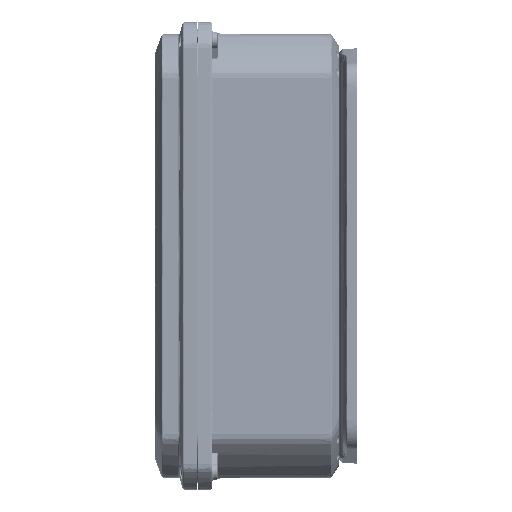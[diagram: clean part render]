
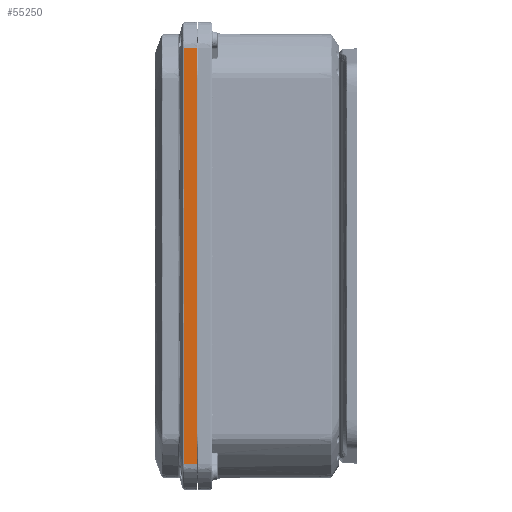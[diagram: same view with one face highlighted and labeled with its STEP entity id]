
A CAD part, left-side view. The second image highlights one B-rep face of the part: STEP entity #55250.
In plain terms, the highlighted planar face has unit normal (-0.999, 0.035, 0).
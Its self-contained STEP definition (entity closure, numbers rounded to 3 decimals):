
#1592 = FACE_OUTER_BOUND ( 'NONE', #233417, .T. ) ;
#2934 = ORIENTED_EDGE ( 'NONE', *, *, #136602, .F. ) ;
#4958 = CARTESIAN_POINT ( 'NONE',  ( -7.607, 0.363, 5.89 ) ) ;
#12623 = CARTESIAN_POINT ( 'NONE',  ( -7.607, 0.363, -5.676 ) ) ;
#13707 = VECTOR ( 'NONE', #243016, 39.37 ) ;
#15386 = CARTESIAN_POINT ( 'NONE',  ( -7.607, 0.363, -5.461 ) ) ;
#21389 = DIRECTION ( 'NONE',  ( -0.035, -0.999, 0. ) ) ;
#23680 = CARTESIAN_POINT ( 'NONE',  ( -7.62, 0., 5.89 ) ) ;
#27574 = CARTESIAN_POINT ( 'NONE',  ( -7.607, 0.363, 4.172 ) ) ;
#35141 = VERTEX_POINT ( 'NONE', #62544 ) ;
#41219 = DIRECTION ( 'NONE',  ( -0.999, 0.035, 0. ) ) ;
#51538 = CARTESIAN_POINT ( 'NONE',  ( -7.607, 0.363, 5.829 ) ) ;
#52941 = EDGE_CURVE ( 'NONE', #175407, #136211, #252218, .T. ) ;
#53319 = CARTESIAN_POINT ( 'NONE',  ( -7.62, 0., -5.89 ) ) ;
#55250 = ADVANCED_FACE ( 'NONE', ( #1592 ), #235129, .T. ) ;
#62007 = CARTESIAN_POINT ( 'NONE',  ( -7.62, 0., -5.89 ) ) ;
#62544 = CARTESIAN_POINT ( 'NONE',  ( -7.62, 0., 5.89 ) ) ;
#63847 = CARTESIAN_POINT ( 'NONE',  ( -7.62, 0., -5.89 ) ) ;
#69490 = EDGE_CURVE ( 'NONE', #151565, #175407, #73954, .T. ) ;
#73954 = B_SPLINE_CURVE_WITH_KNOTS ( 'NONE', 3,
 ( #4958, #92649, #265277, #51538, #137878, #115267, #220040, #91275, #27574, #176169, #94034, #224205, #178949 ),
 .UNSPECIFIED., .F., .F.,
 ( 4, 2, 1, 1, 1, 1, 1, 2, 4 ),
 ( 0., 0.001, 0.002, 0.005, 0.009, 0.019, 0.037, 0.075, 0.15 ),
 .UNSPECIFIED. ) ;
#76864 = VECTOR ( 'NONE', #223013, 39.37 ) ;
#79085 = CARTESIAN_POINT ( 'NONE',  ( -7.607, 0.363, -3.436 ) ) ;
#88528 = ORIENTED_EDGE ( 'NONE', *, *, #69490, .T. ) ;
#90199 = LINE ( 'NONE', #23680, #13707 ) ;
#91275 = CARTESIAN_POINT ( 'NONE',  ( -7.607, 0.363, 5.031 ) ) ;
#92649 = CARTESIAN_POINT ( 'NONE',  ( -7.607, 0.363, 5.875 ) ) ;
#94034 = CARTESIAN_POINT ( 'NONE',  ( -7.607, 0.363, 1.963 ) ) ;
#96169 = CARTESIAN_POINT ( 'NONE',  ( -7.607, 0.363, -0.982 ) ) ;
#100549 = EDGE_CURVE ( 'NONE', #155770, #35141, #245854, .T. ) ;
#115267 = CARTESIAN_POINT ( 'NONE',  ( -7.607, 0.363, 5.676 ) ) ;
#122928 = CARTESIAN_POINT ( 'NONE',  ( -7.607, 0.363, -5.875 ) ) ;
#136211 = VERTEX_POINT ( 'NONE', #205050 ) ;
#136602 = EDGE_CURVE ( 'NONE', #151565, #35141, #90199, .T. ) ;
#137878 = CARTESIAN_POINT ( 'NONE',  ( -7.607, 0.363, 5.783 ) ) ;
#142789 = CARTESIAN_POINT ( 'NONE',  ( -7.607, 0.363, -3.927 ) ) ;
#151565 = VERTEX_POINT ( 'NONE', #207434 ) ;
#155164 = LINE ( 'NONE', #174942, #76864 ) ;
#155770 = VERTEX_POINT ( 'NONE', #62007 ) ;
#159874 = CARTESIAN_POINT ( 'NONE',  ( -7.607, 0.363, -5.829 ) ) ;
#163483 = EDGE_CURVE ( 'NONE', #136211, #155770, #155164, .T. ) ;
#165438 = CARTESIAN_POINT ( 'NONE',  ( -7.607, 0.363, -5.86 ) ) ;
#174942 = CARTESIAN_POINT ( 'NONE',  ( -7.62, 0., -5.89 ) ) ;
#175407 = VERTEX_POINT ( 'NONE', #273852 ) ;
#176169 = CARTESIAN_POINT ( 'NONE',  ( -7.607, 0.363, 3.436 ) ) ;
#178949 = CARTESIAN_POINT ( 'NONE',  ( -7.607, 0.363, 0. ) ) ;
#182470 = CARTESIAN_POINT ( 'NONE',  ( -7.607, 0.363, -1.963 ) ) ;
#192256 = ORIENTED_EDGE ( 'NONE', *, *, #163483, .T. ) ;
#205050 = CARTESIAN_POINT ( 'NONE',  ( -7.607, 0.363, -5.89 ) ) ;
#205117 = CARTESIAN_POINT ( 'NONE',  ( -7.607, 0.363, -5.783 ) ) ;
#206493 = CARTESIAN_POINT ( 'NONE',  ( -7.607, 0.363, -4.663 ) ) ;
#207434 = CARTESIAN_POINT ( 'NONE',  ( -7.607, 0.363, 5.89 ) ) ;
#209296 = ORIENTED_EDGE ( 'NONE', *, *, #52941, .T. ) ;
#220040 = CARTESIAN_POINT ( 'NONE',  ( -7.607, 0.363, 5.461 ) ) ;
#223013 = DIRECTION ( 'NONE',  ( -0.035, -0.999, 0. ) ) ;
#224205 = CARTESIAN_POINT ( 'NONE',  ( -7.607, 0.363, 0.982 ) ) ;
#229103 = CARTESIAN_POINT ( 'NONE',  ( -7.607, 0.363, -5.89 ) ) ;
#233417 = EDGE_LOOP ( 'NONE', ( #88528, #209296, #192256, #247029, #2934 ) ) ;
#235129 = PLANE ( 'NONE',  #279132 ) ;
#243016 = DIRECTION ( 'NONE',  ( -0.035, -0.999, 0. ) ) ;
#243345 = VECTOR ( 'NONE', #269854, 39.37 ) ;
#245854 = LINE ( 'NONE', #53319, #243345 ) ;
#247029 = ORIENTED_EDGE ( 'NONE', *, *, #100549, .T. ) ;
#248981 = CARTESIAN_POINT ( 'NONE',  ( -7.607, 0.363, -5.031 ) ) ;
#252218 = B_SPLINE_CURVE_WITH_KNOTS ( 'NONE', 3,
 ( #272992, #96169, #182470, #79085, #142789, #206493, #248981, #15386, #12623, #205117, #159874, #165438, #122928, #229103 ),
 .UNSPECIFIED., .F., .F.,
 ( 4, 2, 2, 1, 1, 1, 1, 2, 4 ),
 ( 0., 0.075, 0.112, 0.131, 0.14, 0.145, 0.147, 0.148, 0.15 ),
 .UNSPECIFIED. ) ;
#265277 = CARTESIAN_POINT ( 'NONE',  ( -7.607, 0.363, 5.86 ) ) ;
#269854 = DIRECTION ( 'NONE',  ( 0., 0., 1. ) ) ;
#272992 = CARTESIAN_POINT ( 'NONE',  ( -7.607, 0.363, 0. ) ) ;
#273852 = CARTESIAN_POINT ( 'NONE',  ( -7.607, 0.363, 0. ) ) ;
#279132 = AXIS2_PLACEMENT_3D ( 'NONE', #63847, #41219, #21389 ) ;
